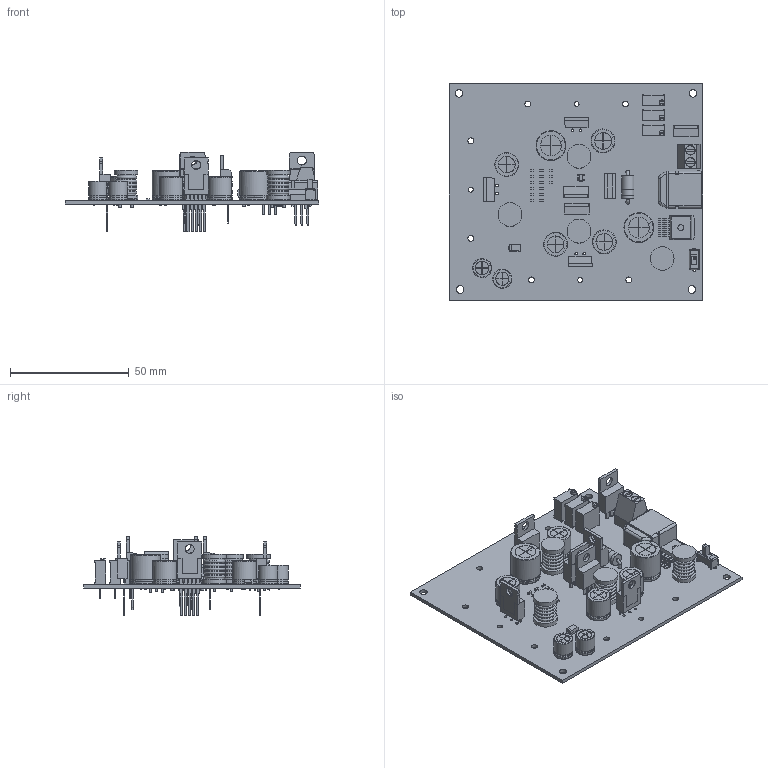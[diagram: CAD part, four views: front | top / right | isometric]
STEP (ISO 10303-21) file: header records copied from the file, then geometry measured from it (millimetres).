
FILE_DESCRIPTION(('KiCad electronic assembly'),'2;1');
FILE_NAME('robodev-power.step','2026-10-07T13:26:16',('Pcbnew'),('Kicad' ),'Open CASCADE STEP processor 7.8','KiCad to STEP converter', 'Unknown');
FILE_SCHEMA(('AUTOMOTIVE_DESIGN { 1 0 10303 214 1 1 1 1 }'));
Length unit declared in the file: millimetre
Products named in the file (21): robodev-power 1; CP_Radial_D10.0mm_P5.00mm; C_0603_1608Metric; SOT-23-5; CP_Radial_D8.0mm_P3.50mm; Potentiometer_Bourns_3296W_Vertical; TO-220-3_Vertical; OS102011MS2QN1; R_0603_1608Metric; XL4016; D_DO-201AD_P12.70mm_Horizontal; MBR2045CT; L_Radial_D10.0mm_P5.00mm_Fastron_07M; CP_Radial_D12.5mm_P5.00mm; XT60PW-M; TerminalBlock_Phoenix_MKDS-1,5-2-5.08_1x02_P5.08mm_Horizontal; D_SMA; TO-263-5_TabPin3; robodev-power 1.44.1; Robodev_Power_PCB
Assembly tree (47 placements, depth 3):
  robodev-power 1
    CP_Radial_D10.0mm_P5.00mm  x4
    C_0603_1608Metric  x8
    SOT-23-5
    CP_Radial_D8.0mm_P3.50mm  x2
    Potentiometer_Bourns_3296W_Vertical  x3
    TO-220-3_Vertical
    OS102011MS2QN1
    R_0603_1608Metric  x7
    XL4016  x3
    D_DO-201AD_P12.70mm_Horizontal
    MBR2045CT  x3
    L_Radial_D10.0mm_P5.00mm_Fastron_07M  x4
    CP_Radial_D12.5mm_P5.00mm  x2
    XT60PW-M
      XT60PW-M
    TerminalBlock_Phoenix_MKDS-1,5-2-5.08_1x02_P5.08mm_Horizontal
    D_SMA
    TO-263-5_TabPin3
      robodev-power 1.44.1
    Robodev_Power_PCB
Bounding box: 106.5 x 91 x 33.34 mm (x, y, z)
Volume: 32780.1 mm3; surface area: 39875 mm2
Topology: 92 solids, 100 shells, 2339 faces, 5916 edges, 3873 vertices
Faces by surface type: plane 1612, cylinder 545, bspline 90, torus 48, revolution 40, cone 4
Full cylindrical faces by diameter (mm): 0.5 x4, 0.51 x9, 0.7 x8, 0.8 x16, 0.9 x4, 1 x16, 1.1 x18, 1.2 x4, 1.29 x9, 1.3 x14, 1.5 x2, 1.6 x2, 2 x8, 2.032 x3, 2.19 x3, 2.489 x6, 2.5 x1, 2.7 x2, 3 x4, 3.2 x4, 3.735 x1, 3.8 x2, 4 x2, 5.2 x2, 5.22 x1, 8 x24, 10 x8
Entity records: 47116 total; most frequent: CARTESIAN_POINT 10297, ORIENTED_EDGE 6654, DIRECTION 6410, EDGE_CURVE 3327, LINE 2414, VECTOR 2414, VERTEX_POINT 2171, AXIS2_PLACEMENT_3D 1990
